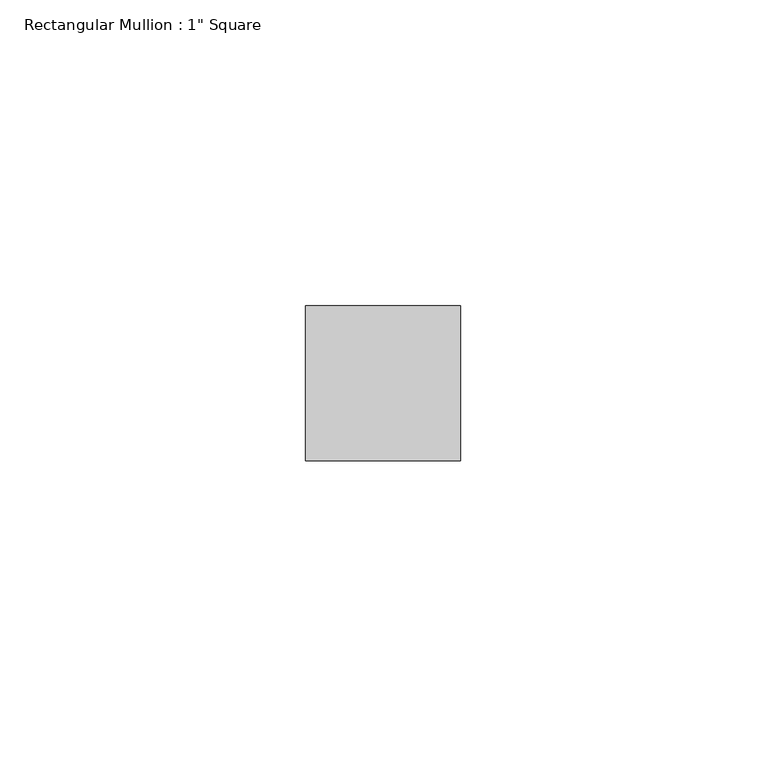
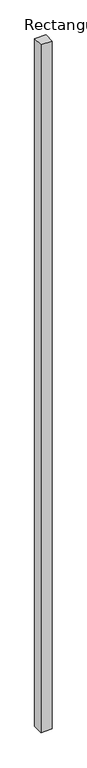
"""IFC4 building model written with IfcOpenShell, lengths in millimetres: member geometry."""

from ifc_helpers import new_model, si_unit, frame, origin, place, context, project, spatial, polyline, outline, extrude, source, transform, mapped, element, save


def member_3a0dd7d7(model_context):
    return source(origin(), model_context, "Body", "SweptSolid", [
        extrude(outline(polyline([(0.0, 12.7), (0.0, -12.7), (-25.4, -12.7), (-25.4, 12.7), (0.0, 12.7)])), frame((0.0, 0.0, -1663.5742153), z_axis=(0.0, 0.0, 1.0), x_axis=(1.0, 0.0, 0.0)), (0.0, 0.0, 1.0), 1663.5742153),
    ])


if __name__ == "__main__":
    model = new_model("IFC4")
    model_context = context("Model", 3, world=origin())
    ifc_project = project(units=[si_unit("LENGTHUNIT", "METRE", prefix="MILLI")], contexts=[model_context])
    site = spatial("IfcSite", under=ifc_project)
    building = spatial("IfcBuilding", under=site)
    placement = place(None, origin())
    member_shape = member_3a0dd7d7(model_context)
    element("IfcMember", 1, ObjectType="Rectangular Mullion : 1\" Square", at=placement, inside=building, context=model_context, shape_type="MappedRepresentation", body=[
        mapped(member_shape, transform((0.0, 0.0, 0.0), x_axis=(1.0, 0.0, 0.0), y_axis=(0.0, 1.0, 0.0), z_axis=(0.0, 0.0, 1.0))),
    ])
    save(model, "model.ifc")
